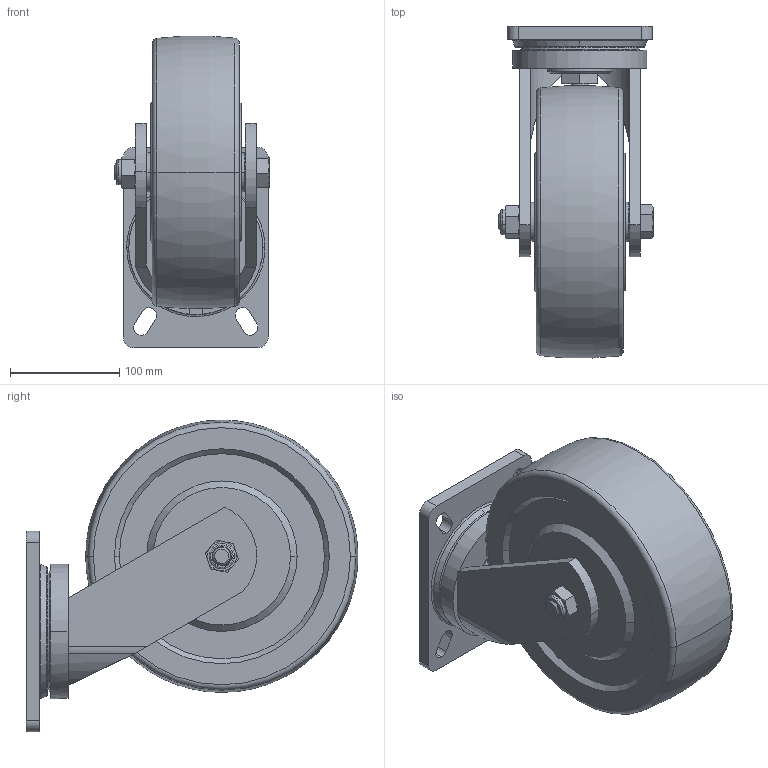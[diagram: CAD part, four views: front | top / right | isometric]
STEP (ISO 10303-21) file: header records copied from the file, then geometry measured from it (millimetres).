
FILE_DESCRIPTION (( 'STEP AP214' ), '1' );
FILE_NAME ('931110-9310-26 す階勀砃.STEP', '2019-12-27T00:47:15', ( 'Owner' ), ( 'Organization' ), 'SwSTEP 2.0', 'SolidWorks 2014', '' );
FILE_SCHEMA (( 'AUTOMOTIVE_DESIGN' ));
Length unit declared in the file: millimetre
Products named in the file (7): 930-33; 9310-26; 930-34; 9310c11; 930-01b 侐源; 931110-9310-26 す階勀砃; 930c03 湮詩俖
Assembly tree (6 placements, depth 2):
  931110-9310-26 す階勀砃
    930-01b 侐源
    930c03 湮詩俖
    930-33
    930-34
    9310c11
    9310-26
Bounding box: 142 x 304.29 x 285.8 mm (x, y, z)
Volume: 4668502.8 mm3; surface area: 345754.9 mm2
Topology: 8 solids, 8 shells, 388 faces, 1013 edges, 659 vertices
Faces by surface type: cylinder 176, plane 82, bspline 78, cone 46, torus 6
Entity records: 390807 total; most frequent: CARTESIAN_POINT 381920, ORIENTED_EDGE 2026, DIRECTION 1418, EDGE_CURVE 1013, VERTEX_POINT 659, AXIS2_PLACEMENT_3D 532, EDGE_LOOP 422, B_SPLINE_CURVE_WITH_KNOTS 408
